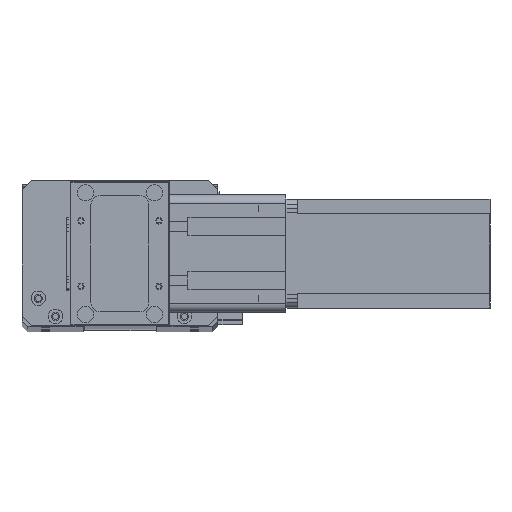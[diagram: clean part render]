
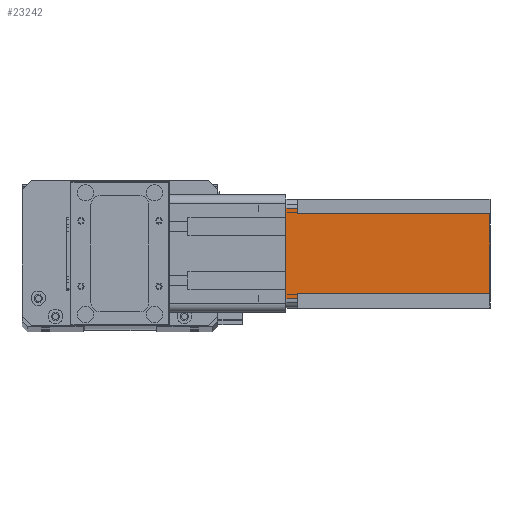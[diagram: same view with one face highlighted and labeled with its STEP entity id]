
A CAD part, top view. The second image highlights one B-rep face of the part: STEP entity #23242.
In plain terms, the highlighted planar face has unit normal (0, 0, 1) as drawn and (0, 1, 0) by its records, which use the part's own axes.
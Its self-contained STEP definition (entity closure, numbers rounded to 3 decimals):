
#39 = DIRECTION ( 'NONE',  ( 0., 0., -1. ) ) ;
#83 = VERTEX_POINT ( 'NONE', #19613 ) ;
#100 = DIRECTION ( 'NONE',  ( 0., 0., 1. ) ) ;
#123 = EDGE_CURVE ( 'NONE', #83, #21778, #440, .T. ) ;
#440 = LINE ( 'NONE', #12232, #5676 ) ;
#592 = VERTEX_POINT ( 'NONE', #23108 ) ;
#1095 = DIRECTION ( 'NONE',  ( 0., 1., 0. ) ) ;
#1332 = ORIENTED_EDGE ( 'NONE', *, *, #28398, .F. ) ;
#2035 = CARTESIAN_POINT ( 'NONE',  ( 8., 60., -112.5 ) ) ;
#2090 = LINE ( 'NONE', #15512, #24864 ) ;
#2112 = EDGE_CURVE ( 'NONE', #83, #13713, #3425, .T. ) ;
#2697 = VECTOR ( 'NONE', #18342, 1000. ) ;
#2988 = CARTESIAN_POINT ( 'NONE',  ( 8., 60., -6.5 ) ) ;
#3425 = LINE ( 'NONE', #9511, #2697 ) ;
#3678 = LINE ( 'NONE', #8846, #7440 ) ;
#4099 = EDGE_CURVE ( 'NONE', #18399, #24592, #6071, .T. ) ;
#5381 = VECTOR ( 'NONE', #27443, 1000. ) ;
#5676 = VECTOR ( 'NONE', #10805, 1000. ) ;
#6071 = LINE ( 'NONE', #25226, #5381 ) ;
#7160 = ORIENTED_EDGE ( 'NONE', *, *, #4099, .T. ) ;
#7440 = VECTOR ( 'NONE', #22022, 1000. ) ;
#7790 = DIRECTION ( 'NONE',  ( 0., 0., 1. ) ) ;
#8846 = CARTESIAN_POINT ( 'NONE',  ( 52., 60., -6.5 ) ) ;
#8882 = EDGE_CURVE ( 'NONE', #592, #21778, #2090, .T. ) ;
#9511 = CARTESIAN_POINT ( 'NONE',  ( 55., 60., -112.5 ) ) ;
#10702 = EDGE_CURVE ( 'NONE', #18946, #592, #22047, .T. ) ;
#10805 = DIRECTION ( 'NONE',  ( -1., 0., 0. ) ) ;
#11899 = ORIENTED_EDGE ( 'NONE', *, *, #17082, .F. ) ;
#12232 = CARTESIAN_POINT ( 'NONE',  ( 0., 60., 0. ) ) ;
#12471 = CARTESIAN_POINT ( 'NONE',  ( 5., 60., 0. ) ) ;
#13035 = ORIENTED_EDGE ( 'NONE', *, *, #123, .F. ) ;
#13577 = CARTESIAN_POINT ( 'NONE',  ( 55., 60., -6.5 ) ) ;
#13713 = VERTEX_POINT ( 'NONE', #13577 ) ;
#13723 = LINE ( 'NONE', #19925, #18898 ) ;
#15512 = CARTESIAN_POINT ( 'NONE',  ( 5., 60., -112.5 ) ) ;
#15660 = ORIENTED_EDGE ( 'NONE', *, *, #23243, .F. ) ;
#15910 = VECTOR ( 'NONE', #7790, 1000. ) ;
#16426 = VERTEX_POINT ( 'NONE', #24290 ) ;
#16507 = DIRECTION ( 'NONE',  ( 0., 0., 1. ) ) ;
#17082 = EDGE_CURVE ( 'NONE', #16426, #13713, #3678, .T. ) ;
#17160 = CARTESIAN_POINT ( 'NONE',  ( 52., 60., -112.5 ) ) ;
#18342 = DIRECTION ( 'NONE',  ( 0., 0., -1. ) ) ;
#18399 = VERTEX_POINT ( 'NONE', #17160 ) ;
#18563 = ORIENTED_EDGE ( 'NONE', *, *, #2112, .T. ) ;
#18651 = PLANE ( 'NONE',  #24364 ) ;
#18898 = VECTOR ( 'NONE', #39, 1000. ) ;
#18946 = VERTEX_POINT ( 'NONE', #25778 ) ;
#19613 = CARTESIAN_POINT ( 'NONE',  ( 55., 60., 0. ) ) ;
#19925 = CARTESIAN_POINT ( 'NONE',  ( 8., 60., -112.5 ) ) ;
#20974 = CARTESIAN_POINT ( 'NONE',  ( 52., 60., -112.5 ) ) ;
#21370 = VECTOR ( 'NONE', #22840, 1000. ) ;
#21745 = ORIENTED_EDGE ( 'NONE', *, *, #8882, .T. ) ;
#21778 = VERTEX_POINT ( 'NONE', #12471 ) ;
#22022 = DIRECTION ( 'NONE',  ( 1., 0., 0. ) ) ;
#22047 = LINE ( 'NONE', #2988, #21370 ) ;
#22840 = DIRECTION ( 'NONE',  ( -1., 0., 0. ) ) ;
#23108 = CARTESIAN_POINT ( 'NONE',  ( 5., 60., -6.5 ) ) ;
#23242 = ADVANCED_FACE ( 'NONE', ( #27704 ), #18651, .T. ) ;
#23243 = EDGE_CURVE ( 'NONE', #18399, #16426, #26986, .T. ) ;
#24129 = EDGE_LOOP ( 'NONE', ( #13035, #18563, #11899, #15660, #7160, #1332, #26000, #21745 ) ) ;
#24290 = CARTESIAN_POINT ( 'NONE',  ( 52., 60., -6.5 ) ) ;
#24364 = AXIS2_PLACEMENT_3D ( 'NONE', #25324, #1095, #16507 ) ;
#24592 = VERTEX_POINT ( 'NONE', #2035 ) ;
#24864 = VECTOR ( 'NONE', #100, 1000. ) ;
#25226 = CARTESIAN_POINT ( 'NONE',  ( 0., 60., -112.5 ) ) ;
#25324 = CARTESIAN_POINT ( 'NONE',  ( 0., 60., -112.5 ) ) ;
#25778 = CARTESIAN_POINT ( 'NONE',  ( 8., 60., -6.5 ) ) ;
#26000 = ORIENTED_EDGE ( 'NONE', *, *, #10702, .T. ) ;
#26986 = LINE ( 'NONE', #20974, #15910 ) ;
#27443 = DIRECTION ( 'NONE',  ( -1., 0., 0. ) ) ;
#27704 = FACE_OUTER_BOUND ( 'NONE', #24129, .T. ) ;
#28398 = EDGE_CURVE ( 'NONE', #18946, #24592, #13723, .T. ) ;
